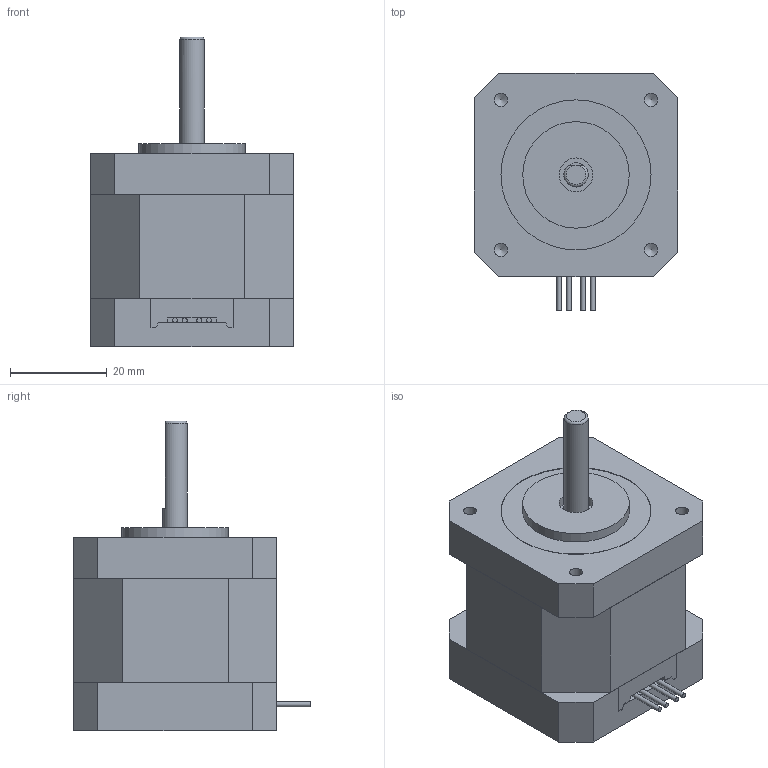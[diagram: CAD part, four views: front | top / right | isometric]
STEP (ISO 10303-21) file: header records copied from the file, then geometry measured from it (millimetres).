
FILE_DESCRIPTION(/* description */ (''),/* implementation_level */ '2;1');
FILE_NAME(/* name */ 'STH-42C2013.stp',/* time_stamp */ '2018-08-13T09:59:52+08:00',/* author */ (''),/* organization */ (''),/* preprocessor_version */ 'ST-DEVELOPER v11',/* originating_system */ 'SIEMENS UGS NX 6.0',/* authorisation */ '');
FILE_SCHEMA (('CONFIG_CONTROL_DESIGN'));
Length unit declared in the file: millimetre
Products named in the file (1): STH-42C2013
Bounding box: 42 x 49 x 64 mm (x, y, z)
Volume: 65982.3 mm3; surface area: 11101.7 mm2
Topology: 5 solids, 7 shells, 148 faces, 355 edges, 237 vertices
Faces by surface type: plane 118, cylinder 21, cone 8, torus 1
Full cylindrical faces by diameter (mm): 1.001 x1, 1.003 x1, 1.006 x1, 1.007 x1, 2.7 x4, 4.414 x4, 5 x3, 7 x3, 8.5 x1, 22 x1, 31 x1
Entity records: 4053 total; most frequent: CARTESIAN_POINT 692, DIRECTION 653, ORIENTED_EDGE 618, EDGE_CURVE 309, LINE 259, VECTOR 259, VERTEX_POINT 224, AXIS2_PLACEMENT_3D 197
